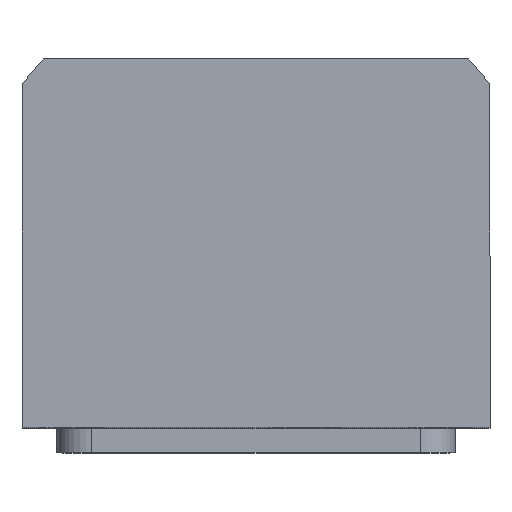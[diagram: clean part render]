
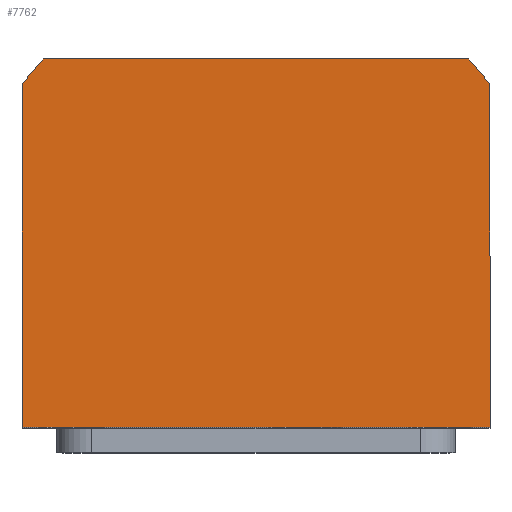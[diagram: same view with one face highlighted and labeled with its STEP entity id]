
A CAD part, top view. The second image highlights one B-rep face of the part: STEP entity #7762.
In plain terms, the highlighted planar face has unit normal (0, 0, 1).
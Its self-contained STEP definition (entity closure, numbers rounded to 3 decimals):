
#270 = VERTEX_POINT ( 'NONE', #8210 ) ;
#322 = EDGE_CURVE ( 'NONE', #1473, #10885, #4909, .T. ) ;
#453 = VECTOR ( 'NONE', #6491, 1000. ) ;
#864 = EDGE_CURVE ( 'NONE', #1933, #1473, #8438, .T. ) ;
#1005 = FACE_OUTER_BOUND ( 'NONE', #1655, .T. ) ;
#1112 = CARTESIAN_POINT ( 'NONE',  ( 47., -34., 62.5 ) ) ;
#1473 = VERTEX_POINT ( 'NONE', #9071 ) ;
#1655 = EDGE_LOOP ( 'NONE', ( #5204, #5181, #10839, #2770, #7510, #1736 ) ) ;
#1736 = ORIENTED_EDGE ( 'NONE', *, *, #9730, .T. ) ;
#1896 = EDGE_CURVE ( 'NONE', #10885, #3744, #6793, .T. ) ;
#1933 = VERTEX_POINT ( 'NONE', #5507 ) ;
#1983 = DIRECTION ( 'NONE',  ( 1., 0., 0. ) ) ;
#2055 = DIRECTION ( 'NONE',  ( 0., 0., 1. ) ) ;
#2770 = ORIENTED_EDGE ( 'NONE', *, *, #4590, .T. ) ;
#3220 = DIRECTION ( 'NONE',  ( 0., -1., 0. ) ) ;
#3245 = VECTOR ( 'NONE', #3220, 1000. ) ;
#3744 = VERTEX_POINT ( 'NONE', #4838 ) ;
#4018 = AXIS2_PLACEMENT_3D ( 'NONE', #4098, #7493, #7455 ) ;
#4098 = CARTESIAN_POINT ( 'NONE',  ( 0., 0., 62.5 ) ) ;
#4303 = EDGE_CURVE ( 'NONE', #9918, #270, #7403, .T. ) ;
#4590 = EDGE_CURVE ( 'NONE', #3744, #9918, #5221, .T. ) ;
#4838 = CARTESIAN_POINT ( 'NONE',  ( 42.688, 40., 62.5 ) ) ;
#4909 = LINE ( 'NONE', #7307, #10422 ) ;
#5181 = ORIENTED_EDGE ( 'NONE', *, *, #322, .T. ) ;
#5204 = ORIENTED_EDGE ( 'NONE', *, *, #864, .T. ) ;
#5221 = LINE ( 'NONE', #9189, #453 ) ;
#5273 = CARTESIAN_POINT ( 'NONE',  ( -42.688, 40., 62.5 ) ) ;
#5395 = PLANE ( 'NONE',  #8808 ) ;
#5507 = CARTESIAN_POINT ( 'NONE',  ( -47., -34., 62.5 ) ) ;
#5584 = DIRECTION ( 'NONE',  ( 0., 1., 0. ) ) ;
#6491 = DIRECTION ( 'NONE',  ( -1., 0., 0. ) ) ;
#6567 = CARTESIAN_POINT ( 'NONE',  ( -47., -34., 62.5 ) ) ;
#6793 = CIRCLE ( 'NONE', #4018, 58.5 ) ;
#7043 = CARTESIAN_POINT ( 'NONE',  ( 0., 0., 62.5 ) ) ;
#7192 = CARTESIAN_POINT ( 'NONE',  ( 47., 34.832, 62.5 ) ) ;
#7307 = CARTESIAN_POINT ( 'NONE',  ( 47., 34.832, 62.5 ) ) ;
#7403 = CIRCLE ( 'NONE', #8611, 58.5 ) ;
#7455 = DIRECTION ( 'NONE',  ( 1., 0., 0. ) ) ;
#7493 = DIRECTION ( 'NONE',  ( 0., 0., 1. ) ) ;
#7510 = ORIENTED_EDGE ( 'NONE', *, *, #4303, .T. ) ;
#7762 = ADVANCED_FACE ( 'NONE', ( #1005 ), #5395, .T. ) ;
#8160 = CARTESIAN_POINT ( 'NONE',  ( 0., 0., 62.5 ) ) ;
#8210 = CARTESIAN_POINT ( 'NONE',  ( -47., 34.832, 62.5 ) ) ;
#8438 = LINE ( 'NONE', #1112, #9514 ) ;
#8611 = AXIS2_PLACEMENT_3D ( 'NONE', #8160, #2055, #8981 ) ;
#8772 = LINE ( 'NONE', #6567, #3245 ) ;
#8808 = AXIS2_PLACEMENT_3D ( 'NONE', #7043, #9636, #10467 ) ;
#8981 = DIRECTION ( 'NONE',  ( 1., 0., 0. ) ) ;
#9071 = CARTESIAN_POINT ( 'NONE',  ( 47., -34., 62.5 ) ) ;
#9189 = CARTESIAN_POINT ( 'NONE',  ( -42.688, 40., 62.5 ) ) ;
#9514 = VECTOR ( 'NONE', #1983, 1000. ) ;
#9636 = DIRECTION ( 'NONE',  ( 0., 0., 1. ) ) ;
#9730 = EDGE_CURVE ( 'NONE', #270, #1933, #8772, .T. ) ;
#9918 = VERTEX_POINT ( 'NONE', #5273 ) ;
#10422 = VECTOR ( 'NONE', #5584, 1000. ) ;
#10467 = DIRECTION ( 'NONE',  ( 1., 0., 0. ) ) ;
#10839 = ORIENTED_EDGE ( 'NONE', *, *, #1896, .T. ) ;
#10885 = VERTEX_POINT ( 'NONE', #7192 ) ;
